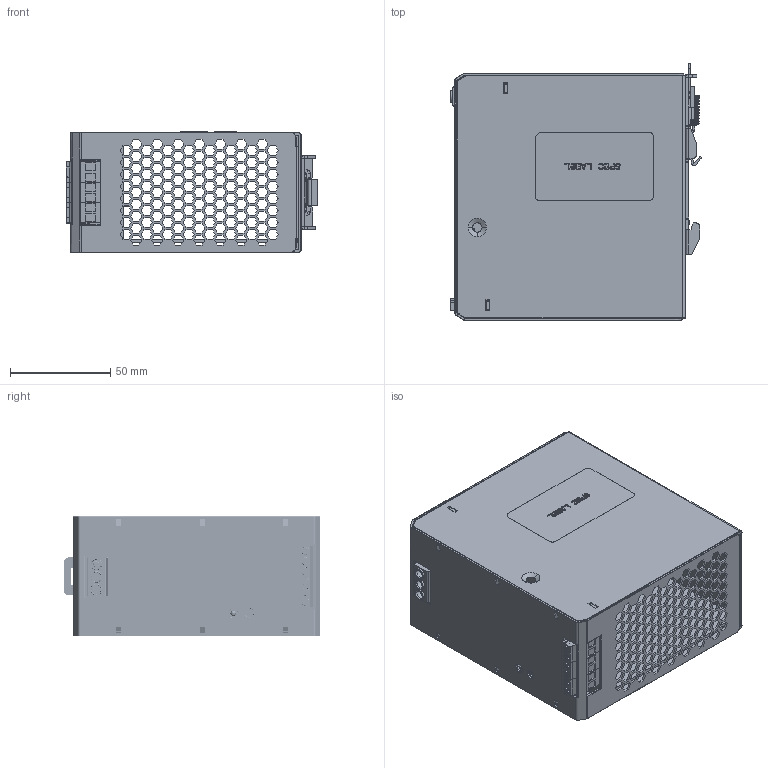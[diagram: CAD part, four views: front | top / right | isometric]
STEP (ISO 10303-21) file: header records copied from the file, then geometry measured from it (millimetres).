
FILE_DESCRIPTION (( 'STEP AP214' ), '1' );
FILE_NAME ('DPSL240W24V.STEP', '2026-04-08T11:42:41', ( '' ), ( '' ), 'SwSTEP 2.0', 'SolidWorks 2022', '' );
FILE_SCHEMA (( 'AUTOMOTIVE_DESIGN' ));
Length unit declared in the file: millimetre
Products named in the file (26): 3D_240W_ASM_ASM_3_ASM_2_ASM.stp; PRT0015.stp; CHASSIS_240W_UPDATE_7_1_1.stp; PRT0012.stp; TIPS-240W24V1MA_1.stp; BMB420-508MA02_7_1_1_1_1.stp; ASSEM1_ASM_6_ASM_1_ASM_1_ASM_1__ASM.stp; ASM0003_ASM.stp; BMB420P201_1_1_1_1_1.stp; TIPS_240W24V_ASM_5_ASM.stp; MB420-508MA02_ASM_4_ASM_1_ASM_2_ASM.stp; DPSL240W24V; TDC414_1.stp; TEC413_1.stp; BMB420U103_2_1_1_1_1.stp; PRT0013.stp; MANIFOLD_SOLID_BREP_262416_1_1_.stp; BRACKET_ASM_2_ASM_1_ASM.stp; PRT0010.stp; COVER_240W_UPDATE_19_1_1.stp; MANIFOLD_SOLID_BREP_262609_1_1_.stp; ASM_UPDATE_ASM_18_ASM_1_ASM_2_ASM.stp; PRT0014.stp; PRT0011.stp; MH150-635M804A302_A4_AF0_6_ASM__ASM.stp; DPSL240W24V.stp
Assembly tree (29 placements, depth 8):
  DPSL240W24V
    DPSL240W24V.stp
      TIPS_240W24V_ASM_5_ASM.stp
        3D_240W_ASM_ASM_3_ASM_2_ASM.stp
          ASM_UPDATE_ASM_18_ASM_1_ASM_2_ASM.stp
            MB420-508MA02_ASM_4_ASM_1_ASM_2_ASM.stp
              ASSEM1_ASM_6_ASM_1_ASM_1_ASM_1__ASM.stp  x3
                BMB420-508MA02_7_1_1_1_1.stp
                BMB420U103_2_1_1_1_1.stp
                BMB420P201_1_1_1_1_1.stp
            MH150-635M804A302_A4_AF0_6_ASM__ASM.stp
              MANIFOLD_SOLID_BREP_262416_1_1_.stp
              MANIFOLD_SOLID_BREP_262609_1_1_.stp
            CHASSIS_240W_UPDATE_7_1_1.stp
            COVER_240W_UPDATE_19_1_1.stp
          BRACKET_ASM_2_ASM_1_ASM.stp
            ASM0003_ASM.stp
              PRT0011.stp
              PRT0012.stp
              PRT0013.stp
          PRT0010.stp
        TIPS-240W24V1MA_1.stp
        TDC414_1.stp
        TEC413_1.stp
        PRT0014.stp
        PRT0015.stp
Bounding box: 125.84 x 128.4 x 60.45 mm (x, y, z)
Volume: 113288.8 mm3; surface area: 172634.7 mm2
Topology: 28 solids, 28 shells, 5698 faces, 15879 edges, 10409 vertices
Faces by surface type: plane 4285, cylinder 816, bspline 448, torus 122, cone 27
Entity records: 147998 total; most frequent: CARTESIAN_POINT 36506, ORIENTED_EDGE 24000, DIRECTION 20700, EDGE_CURVE 12000, LINE 10214, VECTOR 10214, VERTEX_POINT 7856, AXIS2_PLACEMENT_3D 5243
